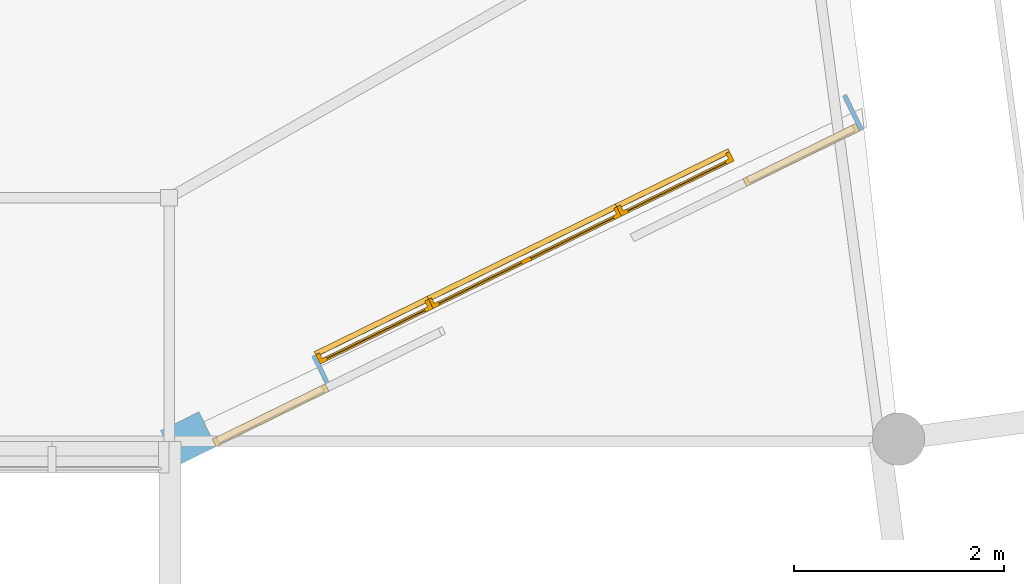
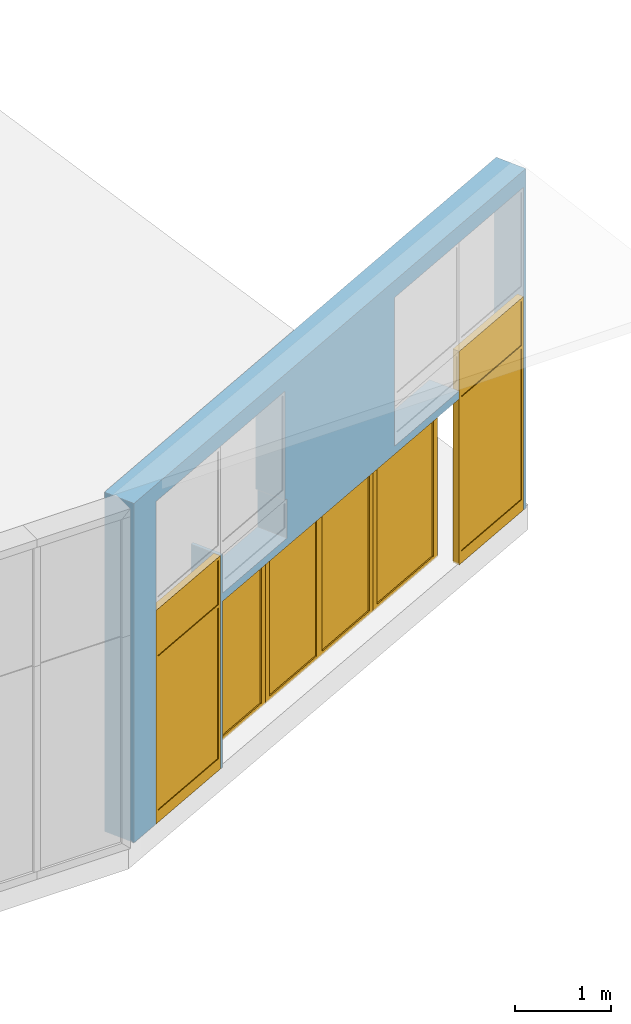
# One storey, part 34 of 40: 3 doors, 2 windows, 11 openings, plus 1 element that does not belong to this part.
"""IFC2X3 building model written with IfcOpenShell, lengths in metres."""

from ifc_helpers import new_model, entity, si_unit, converted_unit, money_unit, direction, frame, origin_with_axes, origin_2d_with_axis, place, context, subcontext, project, spatial, polyline, rectangle, outline, extrude, faceted_brep, source, transform, mapped, material, material_list, layer, layer_set, layer_usage, type_object, element, fill, save


model = new_model("IFC2X3")

# Units and contexts
model_context = context("Model", 3, precision=1e-05, world=origin_with_axes(), true_north=direction((0.0, 1.0)))
body_context = subcontext(model_context, "Body", "Model", "MODEL_VIEW")
ifc_project = project(units=[si_unit("LENGTHUNIT", "METRE"), si_unit("AREAUNIT", "SQUARE_METRE"), si_unit("VOLUMEUNIT", "CUBIC_METRE"), converted_unit("PLANEANGLEUNIT", "DEGREE", entity("IfcPlaneAngleMeasure", 0.0174532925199), si_unit("PLANEANGLEUNIT", "RADIAN"), dimensions=[0, 0, 0, 0, 0, 0, 0]), si_unit("SOLIDANGLEUNIT", "STERADIAN"), money_unit("EUR"), converted_unit("TIMEUNIT", "Year", entity("IfcTimeMeasure", 31556926.0), si_unit("TIMEUNIT", "SECOND"), dimensions=[0, 0, 0, 0, 0, 0, 0]), si_unit("MASSUNIT", "GRAM"), si_unit("THERMODYNAMICTEMPERATUREUNIT", "DEGREE_CELSIUS"), si_unit("LUMINOUSINTENSITYUNIT", "LUMEN")], contexts=[model_context])

# Site, building, storey
site_placement = place(None, origin_with_axes())
site = spatial("IfcSite", under=ifc_project, at=site_placement, Name="Undefined", CompositionType="ELEMENT")
building_placement = place(site_placement, origin_with_axes())
building = spatial("IfcBuilding", under=site, at=building_placement, Name="Undefined", CompositionType="ELEMENT")
storey_placement = place(building_placement, origin_with_axes())
storey = spatial("IfcBuildingStorey", under=building, at=storey_placement, Name="Rez de chauss\x8ee", CompositionType="ELEMENT", Elevation=0.0)

# Wall, openings, windows, doors
ifc_material_1 = material(Name="Finition ext - Cr\x8epis")
ifc_layer_1 = layer(ifc_material_1, 0.015, ventilated="UNKNOWN")
ifc_material_2 = material(Name="Isolation - Fibres de bois")
ifc_layer_2 = layer(ifc_material_2, 0.16, ventilated="UNKNOWN")
ifc_material_3 = material(Name="Struct. - B.A. banch\x8e")
ifc_layer_3 = layer(ifc_material_3, 0.18, ventilated="UNKNOWN")
ifc_material_4 = material(Name="Finition int - Enduit pl\x89tre")
ifc_layer_4 = layer(ifc_material_4, 0.015, ventilated="UNKNOWN")
ifc_layer_set = layer_set([ifc_layer_1, ifc_layer_2, ifc_layer_3, ifc_layer_4], Name="1.2-Mur ext: rev\x8et ext + isol ext + ma\x8donnerie + enduit")
ifc_layer_usage = layer_usage(ifc_layer_set, "AXIS2", "NEGATIVE", 0.185)
wall_type = type_object("IfcWallType", Name="1.2-Mur ext: rev\x8et ext + isol ext + ma\x8donnerie + enduit 370", PredefinedType="NOTDEFINED")
wall_placement = place(storey_placement, frame((68.1452534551, 3.14749727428, 0.1), z_axis=(0.0, 0.0, 1.0), x_axis=(-0.897767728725, -0.440469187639, 0.0)))
wall = element("IfcWallStandardCase", 1, at=wall_placement, inside=storey, type_object=wall_type, material=ifc_layer_usage, Name="SW - 013", ObjectType="WALL", context=body_context, shape_type="SweptSolid", body=[
    extrude(outline(polyline([(0.0, -0.185), (7.28970277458, -0.185), (7.28970277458, 0.185), (0.0, 0.185), (0.0, -0.185)])), origin_with_axes(), (0.0, 0.0, 1.0), 4.2926011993),
])
opening_1_placement = place(wall_placement, frame((6.28183813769, 0.0, 0.0), z_axis=(0.0, 0.0, 1.0), x_axis=(1.0, 0.0, 0.0)))
opening_1 = element("IfcOpeningElement", 2, at=opening_1_placement, cuts=wall, Name="WD - 003", context=body_context, shape_type="SweptSolid", body=[
    extrude(rectangle(XDim=1.2, YDim=2.7, at=origin_2d_with_axis()), frame((0.0, -0.37, 1.35), z_axis=(0.0, 1.0, 0.0), x_axis=(1.0, 0.0, 0.0)), (0.0, 0.0, 1.0), 1.11),
])
opening_2_placement = place(wall_placement, frame((5.08183813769, 0.0, 2.7), z_axis=(0.0, 0.0, 1.0), x_axis=(1.0, 0.0, 0.0)))
element("IfcOpeningElement", 3, at=opening_2_placement, cuts=wall, Name="WD - 003", context=body_context, shape_type="SweptSolid", body=[
    extrude(rectangle(XDim=1.2, YDim=1.38165160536, at=origin_2d_with_axis()), frame((0.0, -0.37, 0.690825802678), z_axis=(0.0, 1.0, 0.0), x_axis=(1.0, 0.0, 0.0)), (0.0, 0.0, 1.0), 1.11),
])
opening_3_placement = place(wall_placement, frame((6.28183813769, 0.0, 2.7), z_axis=(0.0, 0.0, 1.0), x_axis=(1.0, 0.0, 0.0)))
element("IfcOpeningElement", 4, at=opening_3_placement, cuts=wall, Name="WD - 003", context=body_context, shape_type="SweptSolid", body=[
    extrude(rectangle(XDim=1.2, YDim=1.38165160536, at=origin_2d_with_axis()), frame((0.0, -0.37, 0.690825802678), z_axis=(0.0, 1.0, 0.0), x_axis=(1.0, 0.0, 0.0)), (0.0, 0.0, 1.0), 1.11),
])
opening_4_placement = place(wall_placement, frame((0.641172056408, 0.0, 0.0), z_axis=(0.0, 0.0, 1.0), x_axis=(1.0, 0.0, 0.0)))
opening_4 = element("IfcOpeningElement", 5, at=opening_4_placement, cuts=wall, Name="WD - 003", context=body_context, shape_type="SweptSolid", body=[
    extrude(rectangle(XDim=1.2, YDim=2.7, at=origin_2d_with_axis()), frame((0.0, -0.37, 1.35), z_axis=(0.0, 1.0, 0.0), x_axis=(1.0, 0.0, 0.0)), (0.0, 0.0, 1.0), 1.11),
])
opening_5_placement = place(wall_placement, frame((0.641172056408, 0.0, 2.7), z_axis=(0.0, 0.0, 1.0), x_axis=(1.0, 0.0, 0.0)))
element("IfcOpeningElement", 6, at=opening_5_placement, cuts=wall, Name="WD - 003", context=body_context, shape_type="SweptSolid", body=[
    extrude(rectangle(XDim=1.2, YDim=1.38165160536, at=origin_2d_with_axis()), frame((0.0, -0.37, 0.690825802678), z_axis=(0.0, 1.0, 0.0), x_axis=(1.0, 0.0, 0.0)), (0.0, 0.0, 1.0), 1.11),
])
opening_6_placement = place(wall_placement, frame((1.84117205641, 0.0, 2.7), z_axis=(0.0, 0.0, 1.0), x_axis=(1.0, 0.0, 0.0)))
element("IfcOpeningElement", 7, at=opening_6_placement, cuts=wall, Name="WD - 003", context=body_context, shape_type="SweptSolid", body=[
    extrude(rectangle(XDim=1.2, YDim=1.38165160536, at=origin_2d_with_axis()), frame((0.0, -0.37, 0.690825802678), z_axis=(0.0, 1.0, 0.0), x_axis=(1.0, 0.0, 0.0)), (0.0, 0.0, 1.0), 1.11),
])
opening_7_placement = place(wall_placement, frame((5.04117205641, 0.0, 2.2), z_axis=(0.0, 0.0, 1.0), x_axis=(1.0, 0.0, 0.0)))
element("IfcOpeningElement", 8, at=opening_7_placement, cuts=wall, Name="WD - 003", context=body_context, shape_type="SweptSolid", body=[
    extrude(rectangle(XDim=1.2, YDim=0.5, at=origin_2d_with_axis()), frame((0.0, -0.37, 0.25), z_axis=(0.0, 1.0, 0.0), x_axis=(1.0, 0.0, 0.0)), (0.0, 0.0, 1.0), 1.11),
])
opening_8_placement = place(wall_placement, frame((1.84117205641, 0.0, 2.2), z_axis=(0.0, 0.0, 1.0), x_axis=(1.0, 0.0, 0.0)))
element("IfcOpeningElement", 9, at=opening_8_placement, cuts=wall, Name="WD - 003", context=body_context, shape_type="SweptSolid", body=[
    extrude(rectangle(XDim=1.2, YDim=0.5, at=origin_2d_with_axis()), frame((0.0, -0.37, 0.25), z_axis=(0.0, 1.0, 0.0), x_axis=(1.0, 0.0, 0.0)), (0.0, 0.0, 1.0), 1.11),
])
opening_9_placement = place(wall_placement, frame((5.04117205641, 0.0, 0.0), z_axis=(0.0, 0.0, 1.0), x_axis=(1.0, 0.0, 0.0)))
opening_9 = element("IfcOpeningElement", 10, at=opening_9_placement, cuts=wall, Name="DOOR", context=body_context, shape_type="SweptSolid", body=[
    extrude(rectangle(XDim=1.2, YDim=2.1, at=origin_2d_with_axis()), frame((0.0, 0.37, 1.05), z_axis=(0.0, 1.0, 0.0), x_axis=(-1.0, 0.0, 0.0)), (0.0, 0.0, -1.0), 1.11),
    extrude(rectangle(XDim=1.2, YDim=0.0260824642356, at=origin_2d_with_axis()), frame((0.0, -0.555, -0.0130412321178), z_axis=(0.0, -1.0, 0.0), x_axis=(-1.0, 0.0, 0.0)), (0.0, 0.0, -1.0), 0.391308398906),
])
opening_10_placement = place(wall_placement, frame((1.84117205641, 0.0, 0.0), z_axis=(0.0, 0.0, 1.0), x_axis=(1.0, 0.0, 0.0)))
opening_10 = element("IfcOpeningElement", 11, at=opening_10_placement, cuts=wall, Name="DOOR", context=body_context, shape_type="SweptSolid", body=[
    extrude(rectangle(XDim=1.2, YDim=2.1, at=origin_2d_with_axis()), frame((0.0, 0.37, 1.05), z_axis=(0.0, -1.0, 0.0), x_axis=(1.0, 0.0, 0.0)), (0.0, 0.0, 1.0), 1.11),
    extrude(rectangle(XDim=1.2, YDim=0.0260824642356, at=origin_2d_with_axis()), frame((0.0, -0.555, -0.0130412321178), z_axis=(0.0, 1.0, 0.0), x_axis=(1.0, 0.0, 0.0)), (0.0, 0.0, 1.0), 0.391308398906),
])
opening_11_placement = place(wall_placement, frame((3.44117205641, 0.0, 0.0), z_axis=(0.0, 0.0, 1.0), x_axis=(1.0, 0.0, 0.0)))
opening_11 = element("IfcOpeningElement", 12, at=opening_11_placement, cuts=wall, Name="DOOR", context=body_context, shape_type="SweptSolid", body=[
    extrude(rectangle(XDim=2.0, YDim=2.1, at=origin_2d_with_axis()), frame((0.0, 0.37, 1.05), z_axis=(0.0, 1.0, 0.0), x_axis=(-1.0, 0.0, 0.0)), (0.0, 0.0, -1.0), 1.11),
    extrude(rectangle(XDim=2.0, YDim=0.0260824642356, at=origin_2d_with_axis()), frame((0.0, -0.555, -0.0130412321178), z_axis=(0.0, -1.0, 0.0), x_axis=(-1.0, 0.0, 0.0)), (0.0, 0.0, -1.0), 0.391308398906),
])
ifc_material_5 = material(Name="Background Fill-International")
ifc_material_6 = material(Name="05 | Aluminum")
ifc_material_list_1 = material_list([ifc_material_5, ifc_material_6, ifc_material_5, ifc_material_5])
window_style = type_object("IfcWindowStyle", Name="F devanture 4 15", ConstructionType="NOTDEFINED", OperationType="USERDEFINED", ParameterTakesPrecedence=False, Sizeable=False)
shared_shape_1 = source(origin_with_axes(), body_context, "Body", "Brep", [
    faceted_brep([(-0.6, 0.0, 2.7), (-0.6, 0.0, 0.0), (-0.6, -0.08, 0.0), (-0.6, -0.08, 2.7), (-0.56, 0.0, 2.66), (-0.56, 0.0, 2.1), (-0.56, 0.0, 2.06), (-0.56, 0.0, 0.15), (-0.56, -0.08, 0.15), (-0.56, -0.08, 2.06), (-0.56, -0.08, 2.1), (-0.56, -0.08, 2.66)], [[[0, 1, 2, 3]], [[0, 4, 5, 6, 7, 1]], [[1, 7, 8, 2]], [[3, 2, 8, 9, 10, 11]], [[4, 0, 3, 11]], [[5, 4, 11, 10]], [[6, 5, 10, 9]], [[7, 6, 9, 8]]]),
    faceted_brep([(0.6, 0.0, 0.0), (0.6, 0.0, 2.7), (0.6, -0.08, 2.7), (0.6, -0.08, 0.0), (0.56, 0.0, 0.15), (0.56, 0.0, 2.06), (0.56, 0.0, 2.1), (0.56, 0.0, 2.66), (0.56, -0.08, 2.66), (0.56, -0.08, 2.1), (0.56, -0.08, 2.06), (0.56, -0.08, 0.15)], [[[0, 1, 2, 3]], [[0, 4, 5, 6, 7, 1]], [[1, 7, 8, 2]], [[3, 2, 8, 9, 10, 11]], [[4, 0, 3, 11]], [[5, 4, 11, 10]], [[6, 5, 10, 9]], [[7, 6, 9, 8]]]),
    faceted_brep([(0.6, 0.0, 2.7), (-0.6, 0.0, 2.7), (-0.6, -0.08, 2.7), (0.6, -0.08, 2.7), (0.56, 0.0, 2.66), (-0.56, 0.0, 2.66), (-0.56, -0.08, 2.66), (0.56, -0.08, 2.66)], [[[0, 1, 2, 3]], [[0, 4, 5, 1]], [[1, 5, 6, 2]], [[3, 2, 6, 7]], [[4, 0, 3, 7]], [[5, 4, 7, 6]]]),
    faceted_brep([(0.6, 0.0, 0.0), (0.56, 0.0, 0.15), (0.56, -0.08, 0.15), (0.6, -0.08, 0.0), (-0.6, 0.0, 0.0), (-0.56, 0.0, 0.15), (-0.56, -0.08, 0.15), (-0.6, -0.08, 0.0)], [[[0, 1, 2, 3]], [[0, 4, 5, 1]], [[1, 5, 6, 2]], [[3, 2, 6, 7]], [[4, 0, 3, 7]], [[5, 4, 7, 6]]]),
    faceted_brep([(-0.56, 0.0, 2.1), (-0.56, 0.0, 2.06), (-0.56, -0.08, 2.06), (-0.56, -0.08, 2.1), (0.56, 0.0, 2.1), (0.56, 0.0, 2.06), (0.56, -0.08, 2.06), (0.56, -0.08, 2.1)], [[[0, 1, 2, 3]], [[0, 4, 5, 1]], [[1, 5, 6, 2]], [[3, 2, 6, 7]], [[4, 0, 3, 7]], [[5, 4, 7, 6]]]),
    faceted_brep([(-0.56, -0.01, 0.15), (0.56, -0.01, 0.15), (0.56, -0.02, 0.15), (-0.56, -0.02, 0.15), (-0.56, -0.01, 2.06), (0.56, -0.01, 2.06), (0.56, -0.02, 2.06), (-0.56, -0.02, 2.06)], [[[0, 1, 2, 3]], [[0, 4, 5, 1]], [[1, 5, 6, 2]], [[3, 2, 6, 7]], [[4, 0, 3, 7]], [[5, 4, 7, 6]]]),
    faceted_brep([(-0.56, -0.01, 2.1), (0.56, -0.01, 2.1), (0.56, -0.02, 2.1), (-0.56, -0.02, 2.1), (-0.56, -0.01, 2.66), (0.56, -0.01, 2.66), (0.56, -0.02, 2.66), (-0.56, -0.02, 2.66)], [[[0, 1, 2, 3]], [[0, 4, 5, 1]], [[1, 5, 6, 2]], [[3, 2, 6, 7]], [[4, 0, 3, 7]], [[5, 4, 7, 6]]]),
])
window_1_placement = place(opening_1_placement, frame((-0.6, 0.0, 0.0), z_axis=(0.0, 0.0, 1.0), x_axis=(1.0, 0.0, 0.0)))
window_1 = element("IfcWindow", 13, at=window_1_placement, inside=storey, type_object=window_style, material=ifc_material_list_1, Name="WD - 003", OverallHeight=2.7, OverallWidth=1.2, context=body_context, shape_type="MappedRepresentation", body=[
    mapped(shared_shape_1, transform((0.6, 0.185, 0.0))),
])
fill(opening_1, window_1)
shared_shape_2 = source(origin_with_axes(), body_context, "Body", "Brep", [
    faceted_brep([(-0.6, 0.0, 2.7), (-0.6, 0.0, 0.0), (-0.6, -0.08, 0.0), (-0.6, -0.08, 2.7), (-0.56, 0.0, 2.66), (-0.56, 0.0, 2.1), (-0.56, 0.0, 2.06), (-0.56, 0.0, 0.15), (-0.56, -0.08, 0.15), (-0.56, -0.08, 2.06), (-0.56, -0.08, 2.1), (-0.56, -0.08, 2.66)], [[[0, 1, 2, 3]], [[0, 4, 5, 6, 7, 1]], [[1, 7, 8, 2]], [[3, 2, 8, 9, 10, 11]], [[4, 0, 3, 11]], [[5, 4, 11, 10]], [[6, 5, 10, 9]], [[7, 6, 9, 8]]]),
    faceted_brep([(0.6, 0.0, 0.0), (0.6, 0.0, 2.7), (0.6, -0.08, 2.7), (0.6, -0.08, 0.0), (0.56, 0.0, 0.15), (0.56, 0.0, 2.06), (0.56, 0.0, 2.1), (0.56, 0.0, 2.66), (0.56, -0.08, 2.66), (0.56, -0.08, 2.1), (0.56, -0.08, 2.06), (0.56, -0.08, 0.15)], [[[0, 1, 2, 3]], [[0, 4, 5, 6, 7, 1]], [[1, 7, 8, 2]], [[3, 2, 8, 9, 10, 11]], [[4, 0, 3, 11]], [[5, 4, 11, 10]], [[6, 5, 10, 9]], [[7, 6, 9, 8]]]),
    faceted_brep([(0.6, 0.0, 2.7), (-0.6, 0.0, 2.7), (-0.6, -0.08, 2.7), (0.6, -0.08, 2.7), (0.56, 0.0, 2.66), (-0.56, 0.0, 2.66), (-0.56, -0.08, 2.66), (0.56, -0.08, 2.66)], [[[0, 1, 2, 3]], [[0, 4, 5, 1]], [[1, 5, 6, 2]], [[3, 2, 6, 7]], [[4, 0, 3, 7]], [[5, 4, 7, 6]]]),
    faceted_brep([(0.6, 0.0, 0.0), (0.56, 0.0, 0.15), (0.56, -0.08, 0.15), (0.6, -0.08, 0.0), (-0.6, 0.0, 0.0), (-0.56, 0.0, 0.15), (-0.56, -0.08, 0.15), (-0.6, -0.08, 0.0)], [[[0, 1, 2, 3]], [[0, 4, 5, 1]], [[1, 5, 6, 2]], [[3, 2, 6, 7]], [[4, 0, 3, 7]], [[5, 4, 7, 6]]]),
    faceted_brep([(-0.56, 0.0, 2.1), (-0.56, 0.0, 2.06), (-0.56, -0.08, 2.06), (-0.56, -0.08, 2.1), (0.56, 0.0, 2.1), (0.56, 0.0, 2.06), (0.56, -0.08, 2.06), (0.56, -0.08, 2.1)], [[[0, 1, 2, 3]], [[0, 4, 5, 1]], [[1, 5, 6, 2]], [[3, 2, 6, 7]], [[4, 0, 3, 7]], [[5, 4, 7, 6]]]),
    faceted_brep([(-0.56, -0.01, 0.15), (0.56, -0.01, 0.15), (0.56, -0.02, 0.15), (-0.56, -0.02, 0.15), (-0.56, -0.01, 2.06), (0.56, -0.01, 2.06), (0.56, -0.02, 2.06), (-0.56, -0.02, 2.06)], [[[0, 1, 2, 3]], [[0, 4, 5, 1]], [[1, 5, 6, 2]], [[3, 2, 6, 7]], [[4, 0, 3, 7]], [[5, 4, 7, 6]]]),
    faceted_brep([(-0.56, -0.01, 2.1), (0.56, -0.01, 2.1), (0.56, -0.02, 2.1), (-0.56, -0.02, 2.1), (-0.56, -0.01, 2.66), (0.56, -0.01, 2.66), (0.56, -0.02, 2.66), (-0.56, -0.02, 2.66)], [[[0, 1, 2, 3]], [[0, 4, 5, 1]], [[1, 5, 6, 2]], [[3, 2, 6, 7]], [[4, 0, 3, 7]], [[5, 4, 7, 6]]]),
])
window_2_placement = place(opening_4_placement, frame((-0.6, 0.0, 0.0), z_axis=(0.0, 0.0, 1.0), x_axis=(1.0, 0.0, 0.0)))
window_2 = element("IfcWindow", 14, at=window_2_placement, inside=storey, type_object=window_style, material=ifc_material_list_1, Name="WD - 003", OverallHeight=2.7, OverallWidth=1.2, context=body_context, shape_type="MappedRepresentation", body=[
    mapped(shared_shape_2, transform((0.6, 0.185, 0.0))),
])
fill(opening_4, window_2)
ifc_material_7 = material(Name="Air Space")
ifc_material_8 = material(Name="01 | Hatch-Dashed")
ifc_material_9 = material(Name="Foreground Fill-International")
ifc_material_10 = material(Name="07 | Insulation Rigid")
ifc_material_list_2 = material_list([ifc_material_5, ifc_material_7, ifc_material_8, ifc_material_9, ifc_material_5, ifc_material_5, ifc_material_5, ifc_material_5, ifc_material_10, ifc_material_5, ifc_material_5, ifc_material_5, ifc_material_5, ifc_material_7, ifc_material_5, ifc_material_5, ifc_material_5])
door_style_1 = type_object("IfcDoorStyle", Name="Porte d'entr\x8ee 18", ConstructionType="NOTDEFINED", OperationType="SINGLE_SWING_LEFT", ParameterTakesPrecedence=False, Sizeable=False)
shared_shape_3 = source(origin_with_axes(), body_context, "Body", "Brep", [
    faceted_brep([(0.6, -0.08, 0.0), (-0.6, -0.08, 0.0), (-0.6, -0.131308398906, -0.00268895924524), (0.6, -0.131308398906, -0.00268895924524), (0.6, -0.0786916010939, -0.0249657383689), (-0.6, -0.0786916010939, -0.0249657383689), (-0.6, -0.13, -0.0276546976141), (0.6, -0.13, -0.0276546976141)], [[[0, 1, 2, 3]], [[4, 5, 1, 0]], [[1, 5, 6, 2]], [[3, 2, 6, 7]], [[0, 3, 7, 4]], [[7, 6, 5, 4]]]),
    faceted_brep([(0.56, -0.04, 0.0), (0.56, -0.1, 0.0), (0.56, -0.1, 2.06), (0.56, -0.04, 2.06), (0.572, -0.04, 0.0), (0.572, 0.0, 0.0), (0.6, 0.0, 0.0), (0.6, -0.1, 0.0), (0.6, -0.1, 2.06), (0.572, -0.04, 2.06), (0.6, 0.0, 2.06), (0.572, 0.0, 2.06)], [[[0, 1, 2, 3]], [[4, 5, 6, 7, 1, 0]], [[8, 2, 1, 7]], [[9, 3, 2, 8, 10, 11]], [[9, 4, 0, 3]], [[11, 5, 4, 9]], [[11, 10, 6, 5]], [[8, 7, 6, 10]]]),
    faceted_brep([(-0.572, -0.04, 2.06), (-0.572, 0.0, 2.06), (-0.6, 0.0, 2.06), (-0.6, -0.1, 2.06), (-0.56, -0.1, 2.06), (-0.56, -0.04, 2.06), (-0.572, -0.04, 0.0), (-0.572, 0.0, 0.0), (-0.6, 0.0, 0.0), (-0.6, -0.1, 0.0), (-0.56, -0.1, 0.0), (-0.56, -0.04, 0.0)], [[[0, 1, 2, 3, 4, 5]], [[0, 6, 7, 1]], [[7, 8, 2, 1]], [[9, 3, 2, 8]], [[10, 4, 3, 9]], [[5, 4, 10, 11]], [[5, 11, 6, 0]], [[6, 11, 10, 9, 8, 7]]]),
    faceted_brep([(0.572, 0.0, 2.072), (-0.572, 0.0, 2.072), (-0.572, 0.0, 2.06), (-0.6, 0.0, 2.06), (-0.6, 0.0, 2.1), (0.6, 0.0, 2.1), (0.6, 0.0, 2.06), (0.572, 0.0, 2.06), (0.572, -0.04, 2.072), (-0.572, -0.04, 2.072), (-0.572, -0.04, 2.06), (-0.56, -0.04, 2.06), (-0.56, -0.1, 2.06), (-0.6, -0.1, 2.06), (-0.6, -0.1, 2.1), (0.6, -0.1, 2.1), (0.6, -0.1, 2.06), (0.572, -0.04, 2.06), (0.56, -0.1, 2.06), (0.56, -0.04, 2.06)], [[[0, 1, 2, 3, 4, 5, 6, 7]], [[0, 8, 9, 1]], [[1, 9, 10, 2]], [[10, 11, 12, 13, 3, 2]], [[13, 14, 4, 3]], [[14, 15, 5, 4]], [[15, 16, 6, 5]], [[17, 7, 6, 16, 18, 19]], [[7, 17, 8, 0]], [[10, 9, 8, 17, 19, 11]], [[19, 18, 12, 11]], [[14, 13, 12, 18, 16, 15]]]),
    faceted_brep([(-0.572, 0.0, 0.0), (0.572, 0.0, 0.0), (0.572, -0.04, 0.0), (-0.572, -0.04, 0.0), (-0.572, 0.0, 2.072), (0.572, 0.0, 2.072), (0.522, 0.0, 0.05), (0.522, 0.0, 2.022), (-0.522, 0.0, 2.022), (-0.522, 0.0, 0.05), (0.572, -0.04, 2.072), (-0.572, -0.04, 2.072), (0.522, -0.04, 0.05), (-0.522, -0.04, 0.05), (-0.522, -0.04, 2.022), (0.522, -0.04, 2.022)], [[[0, 1, 2, 3]], [[0, 4, 5, 1], [6, 7, 8, 9]], [[1, 5, 10, 2]], [[3, 2, 10, 11], [12, 13, 14, 15]], [[4, 0, 3, 11]], [[5, 4, 11, 10]], [[7, 6, 12, 15]], [[8, 7, 15, 14]], [[9, 8, 14, 13]], [[6, 9, 13, 12]]]),
    faceted_brep([(0.522, -0.015, 0.05), (0.522, -0.015, 2.022), (0.522, -0.025, 2.022), (0.522, -0.025, 0.05), (-0.522, -0.015, 0.05), (-0.522, -0.015, 2.022), (-0.522, -0.025, 2.022), (-0.522, -0.025, 0.05)], [[[0, 1, 2, 3]], [[0, 4, 5, 1]], [[1, 5, 6, 2]], [[3, 2, 6, 7]], [[4, 0, 3, 7]], [[5, 4, 7, 6]]]),
])
door_1_placement = place(opening_9_placement, frame((-0.6, 0.0, 0.0), z_axis=(0.0, 0.0, 1.0), x_axis=(1.0, 0.0, 0.0)))
door_1 = element("IfcDoor", 15, at=door_1_placement, inside=storey, type_object=door_style_1, material=ifc_material_list_2, Name="DOOR", ObjectType="DOOR", OverallHeight=2.1, OverallWidth=1.2, context=body_context, shape_type="MappedRepresentation", body=[
    mapped(shared_shape_3, transform((0.6, -0.085, 0.0))),
])
fill(opening_9, door_1)
door_style_2 = type_object("IfcDoorStyle", Name="Porte d'entr\x8ee 18", ConstructionType="NOTDEFINED", OperationType="SINGLE_SWING_RIGHT", ParameterTakesPrecedence=False, Sizeable=False)
shared_shape_4 = source(origin_with_axes(), body_context, "Body", "Brep", [
    faceted_brep([(-0.6, -0.08, 0.0), (-0.6, -0.131308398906, -0.00268895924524), (0.6, -0.131308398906, -0.00268895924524), (0.6, -0.08, 0.0), (-0.6, -0.0786916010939, -0.0249657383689), (-0.6, -0.13, -0.0276546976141), (0.6, -0.13, -0.0276546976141), (0.6, -0.0786916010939, -0.0249657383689)], [[[0, 1, 2, 3]], [[0, 4, 5, 1]], [[1, 5, 6, 2]], [[3, 2, 6, 7]], [[4, 0, 3, 7]], [[5, 4, 7, 6]]]),
    faceted_brep([(-0.56, -0.04, 0.0), (-0.56, -0.04, 2.06), (-0.56, -0.1, 2.06), (-0.56, -0.1, 0.0), (-0.572, -0.04, 2.06), (-0.572, -0.04, 0.0), (-0.572, 0.0, 2.06), (-0.6, 0.0, 2.06), (-0.6, -0.1, 2.06), (-0.6, -0.1, 0.0), (-0.6, 0.0, 0.0), (-0.572, 0.0, 0.0)], [[[0, 1, 2, 3]], [[4, 1, 0, 5]], [[4, 6, 7, 8, 2, 1]], [[8, 9, 3, 2]], [[5, 0, 3, 9, 10, 11]], [[6, 4, 5, 11]], [[6, 11, 10, 7]], [[8, 7, 10, 9]]]),
    faceted_brep([(0.572, -0.04, 2.06), (0.56, -0.04, 2.06), (0.56, -0.1, 2.06), (0.6, -0.1, 2.06), (0.6, 0.0, 2.06), (0.572, 0.0, 2.06), (0.572, -0.04, 0.0), (0.56, -0.04, 0.0), (0.56, -0.1, 0.0), (0.6, -0.1, 0.0), (0.6, 0.0, 0.0), (0.572, 0.0, 0.0)], [[[0, 1, 2, 3, 4, 5]], [[1, 0, 6, 7]], [[1, 7, 8, 2]], [[8, 9, 3, 2]], [[9, 10, 4, 3]], [[11, 5, 4, 10]], [[0, 5, 11, 6]], [[6, 11, 10, 9, 8, 7]]]),
    faceted_brep([(-0.572, 0.0, 2.072), (-0.572, 0.0, 2.06), (-0.6, 0.0, 2.06), (-0.6, 0.0, 2.1), (0.6, 0.0, 2.1), (0.6, 0.0, 2.06), (0.572, 0.0, 2.06), (0.572, 0.0, 2.072), (-0.572, -0.04, 2.072), (-0.572, -0.04, 2.06), (-0.56, -0.04, 2.06), (-0.56, -0.1, 2.06), (-0.6, -0.1, 2.06), (-0.6, -0.1, 2.1), (0.6, -0.1, 2.1), (0.6, -0.1, 2.06), (0.572, -0.04, 2.06), (0.56, -0.1, 2.06), (0.56, -0.04, 2.06), (0.572, -0.04, 2.072)], [[[0, 1, 2, 3, 4, 5, 6, 7]], [[1, 0, 8, 9]], [[9, 10, 11, 12, 2, 1]], [[13, 3, 2, 12]], [[14, 4, 3, 13]], [[15, 5, 4, 14]], [[16, 6, 5, 15, 17, 18]], [[7, 6, 16, 19]], [[0, 7, 19, 8]], [[16, 18, 10, 9, 8, 19]], [[10, 18, 17, 11]], [[14, 13, 12, 11, 17, 15]]]),
    faceted_brep([(0.572, 0.0, 0.0), (0.572, -0.04, 0.0), (-0.572, -0.04, 0.0), (-0.572, 0.0, 0.0), (0.572, 0.0, 2.072), (0.572, -0.04, 2.072), (-0.572, -0.04, 2.072), (-0.522, -0.04, 0.05), (-0.522, -0.04, 2.022), (0.522, -0.04, 2.022), (0.522, -0.04, 0.05), (-0.572, 0.0, 2.072), (-0.522, 0.0, 0.05), (0.522, 0.0, 0.05), (0.522, 0.0, 2.022), (-0.522, 0.0, 2.022)], [[[0, 1, 2, 3]], [[4, 5, 1, 0]], [[1, 5, 6, 2], [7, 8, 9, 10]], [[3, 2, 6, 11]], [[0, 3, 11, 4], [12, 13, 14, 15]], [[11, 6, 5, 4]], [[15, 8, 7, 12]], [[14, 9, 8, 15]], [[13, 10, 9, 14]], [[12, 7, 10, 13]]]),
    faceted_brep([(-0.522, -0.015, 0.05), (-0.522, -0.025, 0.05), (-0.522, -0.025, 2.022), (-0.522, -0.015, 2.022), (0.522, -0.015, 0.05), (0.522, -0.025, 0.05), (0.522, -0.025, 2.022), (0.522, -0.015, 2.022)], [[[0, 1, 2, 3]], [[4, 5, 1, 0]], [[1, 5, 6, 2]], [[3, 2, 6, 7]], [[0, 3, 7, 4]], [[7, 6, 5, 4]]]),
])
door_2_placement = place(opening_10_placement, frame((-0.6, 0.0, 0.0), z_axis=(0.0, 0.0, 1.0), x_axis=(1.0, 0.0, 0.0)))
door_2 = element("IfcDoor", 16, at=door_2_placement, inside=storey, type_object=door_style_2, material=ifc_material_list_2, Name="DOOR", ObjectType="DOOR", OverallHeight=2.1, OverallWidth=1.2, context=body_context, shape_type="MappedRepresentation", body=[
    mapped(shared_shape_4, transform((0.6, -0.085, 0.0))),
])
fill(opening_10, door_2)
door_style_3 = type_object("IfcDoorStyle", Name="Double porte d'entr\x8ee 18", ConstructionType="NOTDEFINED", OperationType="DOUBLE_DOOR_SINGLE_SWING", ParameterTakesPrecedence=False, Sizeable=False)
shared_shape_5 = source(origin_with_axes(), body_context, "Body", "Brep", [
    faceted_brep([(1.0, -0.08, 0.0), (-1.0, -0.08, 0.0), (-1.0, -0.131308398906, -0.00268895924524), (1.0, -0.131308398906, -0.00268895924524), (1.0, -0.0786916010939, -0.0249657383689), (-1.0, -0.0786916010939, -0.0249657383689), (-1.0, -0.13, -0.0276546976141), (1.0, -0.13, -0.0276546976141)], [[[0, 1, 2, 3]], [[4, 5, 1, 0]], [[1, 5, 6, 2]], [[3, 2, 6, 7]], [[0, 3, 7, 4]], [[7, 6, 5, 4]]]),
    faceted_brep([(0.968, -0.04, 0.0), (0.968, -0.1, 0.0), (0.968, -0.1, 2.068), (0.968, -0.04, 2.068), (0.98, -0.04, 0.0), (0.98, 0.0, 0.0), (1.0, 0.0, 0.0), (1.0, -0.1, 0.0), (1.0, -0.1, 2.068), (0.98, -0.04, 2.068), (1.0, 0.0, 2.068), (0.98, 0.0, 2.068)], [[[0, 1, 2, 3]], [[4, 5, 6, 7, 1, 0]], [[8, 2, 1, 7]], [[9, 3, 2, 8, 10, 11]], [[9, 4, 0, 3]], [[11, 5, 4, 9]], [[11, 10, 6, 5]], [[8, 7, 6, 10]]]),
    faceted_brep([(-0.98, -0.04, 2.068), (-0.98, 0.0, 2.068), (-1.0, 0.0, 2.068), (-1.0, -0.1, 2.068), (-0.968, -0.1, 2.068), (-0.968, -0.04, 2.068), (-0.98, -0.04, 0.0), (-0.98, 0.0, 0.0), (-1.0, 0.0, 0.0), (-1.0, -0.1, 0.0), (-0.968, -0.1, 0.0), (-0.968, -0.04, 0.0)], [[[0, 1, 2, 3, 4, 5]], [[0, 6, 7, 1]], [[7, 8, 2, 1]], [[9, 3, 2, 8]], [[10, 4, 3, 9]], [[5, 4, 10, 11]], [[5, 11, 6, 0]], [[6, 11, 10, 9, 8, 7]]]),
    faceted_brep([(0.98, 0.0, 2.08), (-0.98, 0.0, 2.08), (-0.98, 0.0, 2.068), (-1.0, 0.0, 2.068), (-1.0, 0.0, 2.1), (1.0, 0.0, 2.1), (1.0, 0.0, 2.068), (0.98, 0.0, 2.068), (0.98, -0.04, 2.08), (-0.98, -0.04, 2.08), (-0.98, -0.04, 2.068), (-0.968, -0.04, 2.068), (-0.968, -0.1, 2.068), (-1.0, -0.1, 2.068), (-1.0, -0.1, 2.1), (1.0, -0.1, 2.1), (1.0, -0.1, 2.068), (0.98, -0.04, 2.068), (0.968, -0.1, 2.068), (0.968, -0.04, 2.068)], [[[0, 1, 2, 3, 4, 5, 6, 7]], [[0, 8, 9, 1]], [[1, 9, 10, 2]], [[10, 11, 12, 13, 3, 2]], [[13, 14, 4, 3]], [[14, 15, 5, 4]], [[15, 16, 6, 5]], [[17, 7, 6, 16, 18, 19]], [[7, 17, 8, 0]], [[10, 9, 8, 17, 19, 11]], [[19, 18, 12, 11]], [[14, 13, 12, 18, 16, 15]]]),
    faceted_brep([(-0.98, 0.0, 0.0), (0.0, 0.0, 0.0), (0.0, -0.04, 0.0), (-0.98, -0.04, 0.0), (-0.98, 0.0, 2.08), (0.0, 0.0, 2.08), (-0.05, 0.0, 0.05), (-0.05, 0.0, 2.03), (-0.93, 0.0, 2.03), (-0.93, 0.0, 0.05), (0.0, -0.04, 2.08), (-0.98, -0.04, 2.08), (-0.05, -0.04, 0.05), (-0.93, -0.04, 0.05), (-0.93, -0.04, 2.03), (-0.05, -0.04, 2.03)], [[[0, 1, 2, 3]], [[0, 4, 5, 1], [6, 7, 8, 9]], [[1, 5, 10, 2]], [[3, 2, 10, 11], [12, 13, 14, 15]], [[4, 0, 3, 11]], [[5, 4, 11, 10]], [[7, 6, 12, 15]], [[8, 7, 15, 14]], [[9, 8, 14, 13]], [[6, 9, 13, 12]]]),
    faceted_brep([(-0.05, -0.015, 0.05), (-0.05, -0.015, 2.03), (-0.05, -0.025, 2.03), (-0.05, -0.025, 0.05), (-0.93, -0.015, 0.05), (-0.93, -0.015, 2.03), (-0.93, -0.025, 2.03), (-0.93, -0.025, 0.05)], [[[0, 1, 2, 3]], [[0, 4, 5, 1]], [[1, 5, 6, 2]], [[3, 2, 6, 7]], [[4, 0, 3, 7]], [[5, 4, 7, 6]]]),
    faceted_brep([(0.98, 0.0, 0.0), (0.98, -0.04, 0.0), (0.0, -0.04, 0.0), (0.0, 0.0, 0.0), (0.98, 0.0, 2.08), (0.98, -0.04, 2.08), (0.0, -0.04, 2.08), (0.05, -0.04, 0.05), (0.05, -0.04, 2.03), (0.93, -0.04, 2.03), (0.93, -0.04, 0.05), (0.0, 0.0, 2.08), (0.05, 0.0, 0.05), (0.93, 0.0, 0.05), (0.93, 0.0, 2.03), (0.05, 0.0, 2.03)], [[[0, 1, 2, 3]], [[4, 5, 1, 0]], [[1, 5, 6, 2], [7, 8, 9, 10]], [[3, 2, 6, 11]], [[0, 3, 11, 4], [12, 13, 14, 15]], [[11, 6, 5, 4]], [[15, 8, 7, 12]], [[14, 9, 8, 15]], [[13, 10, 9, 14]], [[12, 7, 10, 13]]]),
    faceted_brep([(0.05, -0.015, 0.05), (0.05, -0.025, 0.05), (0.05, -0.025, 2.03), (0.05, -0.015, 2.03), (0.93, -0.015, 0.05), (0.93, -0.025, 0.05), (0.93, -0.025, 2.03), (0.93, -0.015, 2.03)], [[[0, 1, 2, 3]], [[4, 5, 1, 0]], [[1, 5, 6, 2]], [[3, 2, 6, 7]], [[0, 3, 7, 4]], [[7, 6, 5, 4]]]),
])
door_3_placement = place(opening_11_placement, frame((-1.0, 0.0, 0.0), z_axis=(0.0, 0.0, 1.0), x_axis=(1.0, 0.0, 0.0)))
door_3 = element("IfcDoor", 17, at=door_3_placement, inside=storey, type_object=door_style_3, material=ifc_material_list_2, Name="DOOR", ObjectType="DOOR", OverallHeight=2.1, OverallWidth=2.0, context=body_context, shape_type="MappedRepresentation", body=[
    mapped(shared_shape_5, transform((1.0, -0.085, 0.0))),
])
fill(opening_11, door_3)

save(model, "model.ifc")
